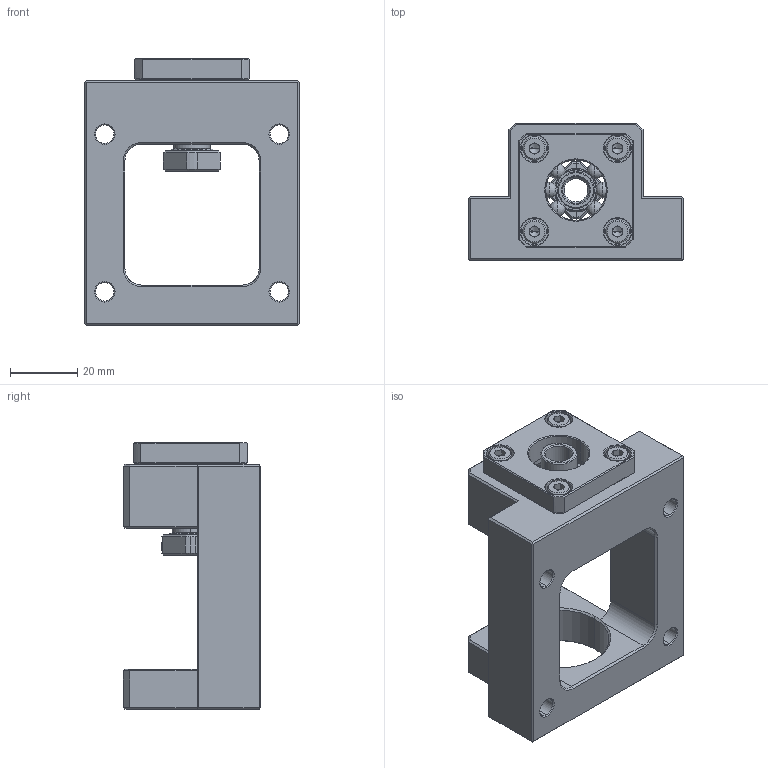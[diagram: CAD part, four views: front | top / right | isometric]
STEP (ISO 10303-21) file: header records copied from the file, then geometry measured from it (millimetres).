
FILE_DESCRIPTION (( 'STEP AP203' ), '1' );
FILE_NAME ('SBJU08A-P0.STEP', '2009-06-01T00:13:17', ( '冠犁泅' ), ( '俺惯何' ), 'SwSTEP 2.0', 'SolidWorks 2007', '' );
FILE_SCHEMA (( 'CONFIG_CONTROL_DESIGN' ));
Length unit declared in the file: millimetre
Products named in the file (11): K08_EK_BK_FK08(COLLAR)-1_晦獄 撲薑; Socket Head Cap Screw_M4x12L_B18.3.1M - 4 x 0.7 x 8 Hex SHCS -- 8NHX; SBJU08A-P0; SBJU08A-P0 BODY_ル遽; EN8_ル遽; P0_COVER_ル遽; K08_EK_BK_FK08(COLLAR)-2_晦獄 撲薑; RN08_ル遽; RN08_NUT_晦獄 撲薑; SET PIECE_白2.3x1_晦獄 撲薑; SET SCREW M3 x 4L_B18.3.6M - M3 x 0.5 x 3 Hex Socket Flat Pt. SS --N
Assembly tree (14 placements, depth 3):
  SBJU08A-P0
    SBJU08A-P0 BODY_ル遽
    K08_EK_BK_FK08(COLLAR)-2_晦獄 撲薑
    EN8_ル遽  x2
    Socket Head Cap Screw_M4x12L_B18.3.1M - 4 x 0.7 x 8 Hex SHCS -- 8NHX  x4
    RN08_ル遽
      SET PIECE_白2.3x1_晦獄 撲薑
      RN08_NUT_晦獄 撲薑
      SET SCREW M3 x 4L_B18.3.6M - M3 x 0.5 x 3 Hex Socket Flat Pt. SS --N
    P0_COVER_ル遽
    K08_EK_BK_FK08(COLLAR)-1_晦獄 撲薑
Bounding box: 64 x 41 x 79.5 mm (x, y, z)
Volume: 72611.3 mm3; surface area: 32584 mm2
Topology: 11 solids, 31 shells, 541 faces, 1261 edges, 711 vertices
Faces by surface type: plane 185, cone 155, cylinder 133, bspline 60, torus 8
Entity records: 13389 total; most frequent: CARTESIAN_POINT 2820, DIRECTION 2073, ORIENTED_EDGE 1812, EDGE_CURVE 913, AXIS2_PLACEMENT_3D 803, VERTEX_POINT 552, EDGE_LOOP 475, VECTOR 467
